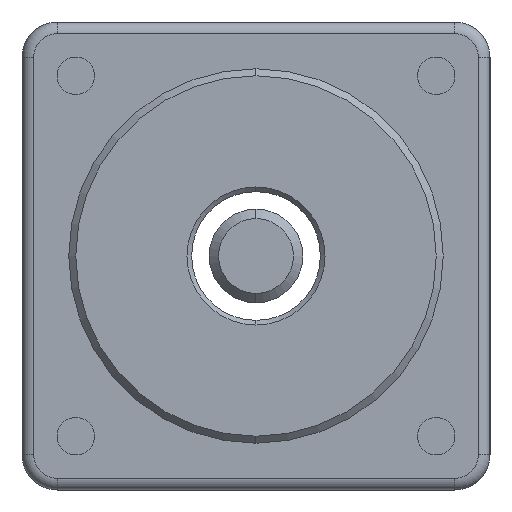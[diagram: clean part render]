
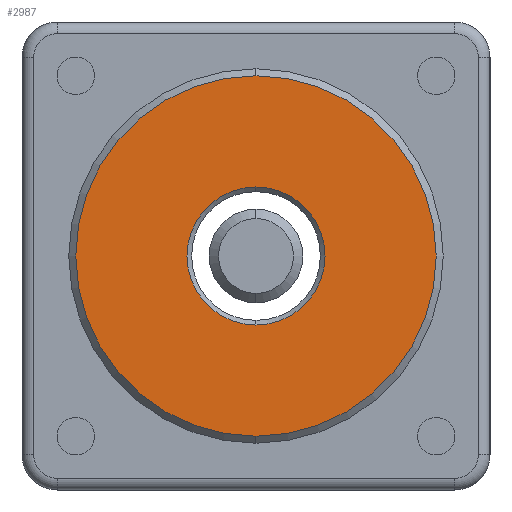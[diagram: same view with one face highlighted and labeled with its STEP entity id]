
A CAD part, left-side view. The second image highlights one B-rep face of the part: STEP entity #2987.
In plain terms, the highlighted planar face has unit normal (-1, 0, 0).
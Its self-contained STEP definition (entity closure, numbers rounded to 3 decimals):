
#64 = EDGE_LOOP ( 'NONE', ( #1568, #4924 ) ) ;
#218 = DIRECTION ( 'NONE',  ( 0., 0., 1. ) ) ;
#366 = DIRECTION ( 'NONE',  ( -1., 0., 0. ) ) ;
#407 = EDGE_LOOP ( 'NONE', ( #4592, #5700 ) ) ;
#521 = CARTESIAN_POINT ( 'NONE',  ( -1.5, 0., -7.7 ) ) ;
#633 = FACE_BOUND ( 'NONE', #64, .T. ) ;
#1003 = CIRCLE ( 'NONE', #4406, 7.7 ) ;
#1218 = CARTESIAN_POINT ( 'NONE',  ( -1.5, 0., 2.95 ) ) ;
#1384 = DIRECTION ( 'NONE',  ( 0., 0., 1. ) ) ;
#1459 = DIRECTION ( 'NONE',  ( -1., 0., 0. ) ) ;
#1568 = ORIENTED_EDGE ( 'NONE', *, *, #1716, .T. ) ;
#1613 = CIRCLE ( 'NONE', #2116, 2.95 ) ;
#1619 = DIRECTION ( 'NONE',  ( 0., 0., 1. ) ) ;
#1716 = EDGE_CURVE ( 'NONE', #6210, #4343, #2142, .T. ) ;
#1720 = CARTESIAN_POINT ( 'NONE',  ( -1.5, 0., -2.95 ) ) ;
#1880 = VERTEX_POINT ( 'NONE', #521 ) ;
#1911 = DIRECTION ( 'NONE',  ( 1., 0., 0. ) ) ;
#2116 = AXIS2_PLACEMENT_3D ( 'NONE', #2887, #2398, #1384 ) ;
#2142 = CIRCLE ( 'NONE', #2355, 2.95 ) ;
#2355 = AXIS2_PLACEMENT_3D ( 'NONE', #5939, #1911, #218 ) ;
#2398 = DIRECTION ( 'NONE',  ( 1., 0., 0. ) ) ;
#2679 = DIRECTION ( 'NONE',  ( -1., 0., 0. ) ) ;
#2887 = CARTESIAN_POINT ( 'NONE',  ( -1.5, 0., 0. ) ) ;
#2913 = CARTESIAN_POINT ( 'NONE',  ( -1.5, 0., 7.7 ) ) ;
#2987 = ADVANCED_FACE ( 'NONE', ( #633, #4489 ), #4604, .T. ) ;
#3322 = AXIS2_PLACEMENT_3D ( 'NONE', #5590, #1459, #6629 ) ;
#3450 = CARTESIAN_POINT ( 'NONE',  ( -1.5, 0., 0. ) ) ;
#4124 = EDGE_CURVE ( 'NONE', #4343, #6210, #1613, .T. ) ;
#4172 = AXIS2_PLACEMENT_3D ( 'NONE', #3450, #366, #6665 ) ;
#4343 = VERTEX_POINT ( 'NONE', #1720 ) ;
#4406 = AXIS2_PLACEMENT_3D ( 'NONE', #5334, #2679, #1619 ) ;
#4489 = FACE_OUTER_BOUND ( 'NONE', #407, .T. ) ;
#4592 = ORIENTED_EDGE ( 'NONE', *, *, #6048, .T. ) ;
#4604 = PLANE ( 'NONE',  #3322 ) ;
#4924 = ORIENTED_EDGE ( 'NONE', *, *, #4124, .T. ) ;
#5038 = EDGE_CURVE ( 'NONE', #6631, #1880, #6587, .T. ) ;
#5334 = CARTESIAN_POINT ( 'NONE',  ( -1.5, 0., 0. ) ) ;
#5590 = CARTESIAN_POINT ( 'NONE',  ( -1.5, 0., 0. ) ) ;
#5700 = ORIENTED_EDGE ( 'NONE', *, *, #5038, .T. ) ;
#5939 = CARTESIAN_POINT ( 'NONE',  ( -1.5, 0., 0. ) ) ;
#6048 = EDGE_CURVE ( 'NONE', #1880, #6631, #1003, .T. ) ;
#6210 = VERTEX_POINT ( 'NONE', #1218 ) ;
#6587 = CIRCLE ( 'NONE', #4172, 7.7 ) ;
#6629 = DIRECTION ( 'NONE',  ( 0., 0., 1. ) ) ;
#6631 = VERTEX_POINT ( 'NONE', #2913 ) ;
#6665 = DIRECTION ( 'NONE',  ( 0., 0., 1. ) ) ;
